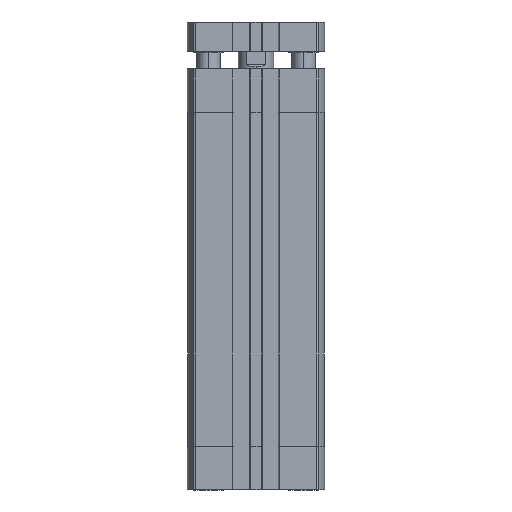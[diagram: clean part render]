
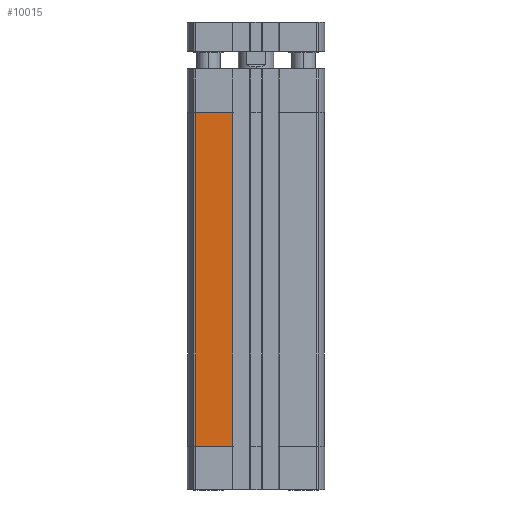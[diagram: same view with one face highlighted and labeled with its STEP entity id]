
A CAD part, front view. The second image highlights one B-rep face of the part: STEP entity #10015.
In plain terms, the highlighted planar face has unit normal (0, -1, 0) as drawn and (-1, 0, 0) by its records, which use the part's own axes.
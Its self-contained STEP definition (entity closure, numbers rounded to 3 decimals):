
#98 = EDGE_CURVE ( 'NONE', #7716, #20413, #4575, .T. ) ;
#2265 = CARTESIAN_POINT ( 'NONE',  ( -23.25, 20.543, -129. ) ) ;
#2407 = DIRECTION ( 'NONE',  ( -1., 0., 0. ) ) ;
#3226 = CARTESIAN_POINT ( 'NONE',  ( -23.25, 20.543, -129. ) ) ;
#3669 = LINE ( 'NONE', #6463, #4243 ) ;
#4017 = VECTOR ( 'NONE', #8525, 1000. ) ;
#4150 = CARTESIAN_POINT ( 'NONE',  ( -23.25, 7.95, -129. ) ) ;
#4243 = VECTOR ( 'NONE', #15367, 1000. ) ;
#4575 = LINE ( 'NONE', #3226, #4017 ) ;
#4690 = AXIS2_PLACEMENT_3D ( 'NONE', #20184, #2407, #14868 ) ;
#4751 = VECTOR ( 'NONE', #20252, 1000. ) ;
#5292 = ORIENTED_EDGE ( 'NONE', *, *, #18426, .F. ) ;
#6463 = CARTESIAN_POINT ( 'NONE',  ( -23.25, 0., -15. ) ) ;
#6881 = VERTEX_POINT ( 'NONE', #8364 ) ;
#7716 = VERTEX_POINT ( 'NONE', #11936 ) ;
#8364 = CARTESIAN_POINT ( 'NONE',  ( -23.25, 7.95, -129. ) ) ;
#8525 = DIRECTION ( 'NONE',  ( 0., 0., -1. ) ) ;
#8789 = ORIENTED_EDGE ( 'NONE', *, *, #18600, .T. ) ;
#9499 = PLANE ( 'NONE',  #4690 ) ;
#9734 = EDGE_LOOP ( 'NONE', ( #19923, #5292, #8789, #19759 ) ) ;
#10015 = ADVANCED_FACE ( 'NONE', ( #15393 ), #9499, .T. ) ;
#11776 = VECTOR ( 'NONE', #14818, 1000. ) ;
#11936 = CARTESIAN_POINT ( 'NONE',  ( -23.25, 20.543, -15. ) ) ;
#12317 = LINE ( 'NONE', #4150, #11776 ) ;
#14818 = DIRECTION ( 'NONE',  ( 0., 0., -1. ) ) ;
#14868 = DIRECTION ( 'NONE',  ( 0., 0., 1. ) ) ;
#15367 = DIRECTION ( 'NONE',  ( 0., 1., 0. ) ) ;
#15393 = FACE_OUTER_BOUND ( 'NONE', #9734, .T. ) ;
#18426 = EDGE_CURVE ( 'NONE', #22397, #6881, #12317, .T. ) ;
#18467 = CARTESIAN_POINT ( 'NONE',  ( -23.25, 20.543, -129. ) ) ;
#18600 = EDGE_CURVE ( 'NONE', #22397, #7716, #3669, .T. ) ;
#19466 = EDGE_CURVE ( 'NONE', #20413, #6881, #20105, .T. ) ;
#19759 = ORIENTED_EDGE ( 'NONE', *, *, #98, .T. ) ;
#19923 = ORIENTED_EDGE ( 'NONE', *, *, #19466, .T. ) ;
#20105 = LINE ( 'NONE', #18467, #4751 ) ;
#20184 = CARTESIAN_POINT ( 'NONE',  ( -23.25, 20.543, -129. ) ) ;
#20252 = DIRECTION ( 'NONE',  ( 0., -1., 0. ) ) ;
#20413 = VERTEX_POINT ( 'NONE', #2265 ) ;
#22397 = VERTEX_POINT ( 'NONE', #22829 ) ;
#22829 = CARTESIAN_POINT ( 'NONE',  ( -23.25, 7.95, -15. ) ) ;
